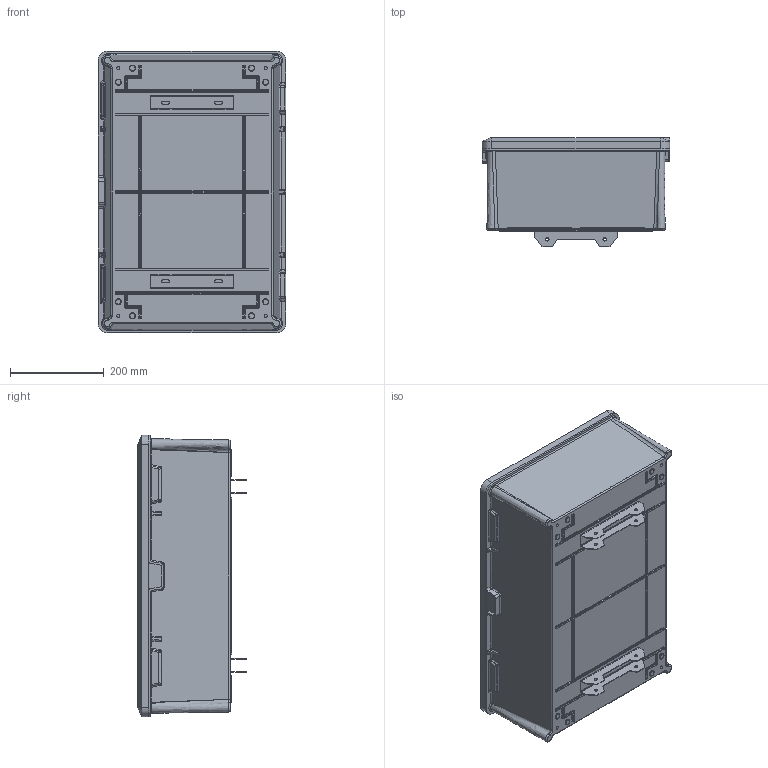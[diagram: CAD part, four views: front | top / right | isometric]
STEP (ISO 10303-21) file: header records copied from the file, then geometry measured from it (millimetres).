
FILE_DESCRIPTION(('TFLEX Exchange Step'),'2;1');
FILE_NAME('X2\0422\X0\406020У-00.stp', '2022-11-08T16:19:35+03:00',('melekhin'),('Unknown organisation'),'TFLEX Exchange 2019.0','T-FLEX CAD','Unknown authorisation');
FILE_SCHEMA( ('AUTOMOTIVE_DESIGN { 1 0 10303 214 1 1 1 1 }') );
Length unit declared in the file: millimetre
Products named in the file (11): <Et>Крепление столбовое КУ Тат; Панель монтажная металлическая 40х60 (Т); <Корпуса (Т)>Корпуса Et:25; <Корпуса (Т)>Корпуса Et:24; <Корпуса (Т)>Корпуса Et:23; <Корпуса (Т)>Корпуса Et:22; <Корпуса (Т)>Корпуса Et:21; <Корпуса (Т)>Корпуса Et:20; <Корпуса (Т)>Корпуса Et:5; <Корпуса (Т)>Корпуса Et; BUFFER:000000EDD99FC6F0 
Assembly tree (20 placements, depth 3):
  BUFFER:000000EDD99FC6F0 
    <Et>Крепление столбовое КУ Тат  x2
    <Корпуса (Т)>Корпуса Et
      Панель монтажная металлическая 40х60 (Т)
      <Корпуса (Т)>Корпуса Et:25  x2
      <Корпуса (Т)>Корпуса Et:24  x2
      <Корпуса (Т)>Корпуса Et:23  x2
      <Корпуса (Т)>Корпуса Et:22  x2
      <Корпуса (Т)>Корпуса Et:21  x2
      <Корпуса (Т)>Корпуса Et:20  x2
      <Корпуса (Т)>Корпуса Et:5  x4
Bounding box: 400 x 233 x 600 mm (x, y, z)
Volume: 4524194.6 mm3; surface area: 2192082.8 mm2
Topology: 31 solids, 31 shells, 1956 faces, 5086 edges, 3178 vertices
Faces by surface type: plane 991, cylinder 490, bspline 261, torus 93, cone 70, sphere 51
Full cylindrical faces by diameter (mm): 3 x4, 3.999 x1, 4 x7, 5.5 x4, 6 x4, 9.9 x2, 10.05 x2, 12 x4, 12.55 x2, 13 x2, 13.001 x2, 13.5 x2, 15.67 x2, 16 x2, 16.25 x2, 16.45 x2, 19.6 x2, 22 x2, 30 x2
Entity records: 98570 total; most frequent: CARTESIAN_POINT 59098, ORIENTED_EDGE 8536, DIRECTION 7449, EDGE_CURVE 4268, VERTEX_POINT 2704, AXIS2_PLACEMENT_3D 2565, VECTOR 2319, LINE 2319
